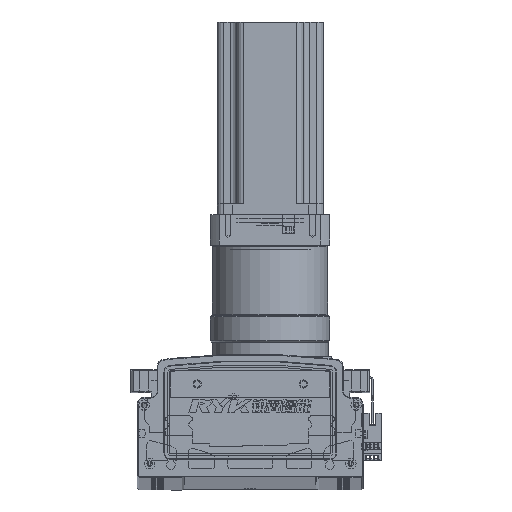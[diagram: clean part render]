
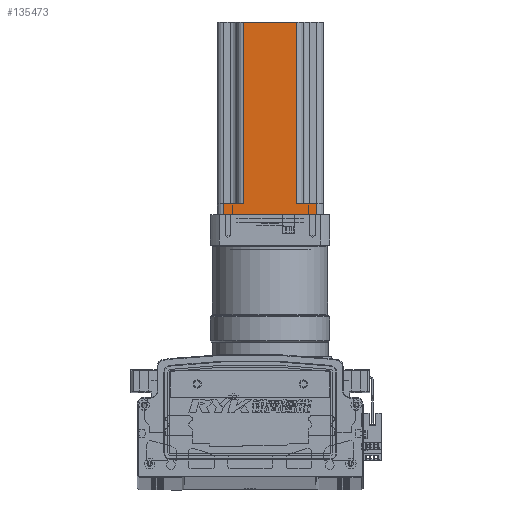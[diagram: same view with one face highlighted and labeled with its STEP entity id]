
A CAD part, top view. The second image highlights one B-rep face of the part: STEP entity #135473.
In plain terms, the highlighted planar face has unit normal (0, 0, 1) as drawn and (0, -1, 0) by its records, which use the part's own axes.
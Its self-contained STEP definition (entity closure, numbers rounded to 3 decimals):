
#10760 = VERTEX_POINT ( 'NONE', #53860 ) ;
#10774 = VERTEX_POINT ( 'NONE', #53839 ) ;
#10790 = VERTEX_POINT ( 'NONE', #53899 ) ;
#10802 = VERTEX_POINT ( 'NONE', #53880 ) ;
#10834 = VERTEX_POINT ( 'NONE', #53932 ) ;
#10842 = VERTEX_POINT ( 'NONE', #53822 ) ;
#10854 = VERTEX_POINT ( 'NONE', #53874 ) ;
#10863 = VERTEX_POINT ( 'NONE', #53868 ) ;
#38737 = PLANE ( 'NONE',  #45768 ) ;
#38752 = CARTESIAN_POINT ( 'NONE',  ( -87.587, -40.37, 145. ) ) ;
#38783 = DIRECTION ( 'NONE',  ( 0., 1., 0. ) ) ;
#38791 = DIRECTION ( 'NONE',  ( -1., 0., 0. ) ) ;
#45768 = AXIS2_PLACEMENT_3D ( 'NONE', #38752, #38783, #38791 ) ;
#48933 = FACE_OUTER_BOUND ( 'NONE', #79654, .T. ) ;
#53822 = CARTESIAN_POINT ( 'NONE',  ( -82.587, -40.37, 8. ) ) ;
#53839 = CARTESIAN_POINT ( 'NONE',  ( -12.587, -40.37, 8. ) ) ;
#53860 = CARTESIAN_POINT ( 'NONE',  ( -12.587, -40.37, 0. ) ) ;
#53868 = CARTESIAN_POINT ( 'NONE',  ( -67.587, -40.37, 145. ) ) ;
#53874 = CARTESIAN_POINT ( 'NONE',  ( -27.587, -40.37, 145. ) ) ;
#53880 = CARTESIAN_POINT ( 'NONE',  ( -67.587, -40.37, 8. ) ) ;
#53899 = CARTESIAN_POINT ( 'NONE',  ( -82.587, -40.37, 0. ) ) ;
#53932 = CARTESIAN_POINT ( 'NONE',  ( -27.587, -40.37, 8. ) ) ;
#79654 = EDGE_LOOP ( 'NONE', ( #126780, #126711, #126719, #126680, #126779, #126769, #126784, #126825 ) ) ;
#91971 = EDGE_CURVE ( 'NONE', #10790, #10760, #122271, .T. ) ;
#92004 = EDGE_CURVE ( 'NONE', #10834, #10774, #122319, .T. ) ;
#92007 = EDGE_CURVE ( 'NONE', #10863, #10854, #122378, .T. ) ;
#92065 = EDGE_CURVE ( 'NONE', #10863, #10802, #122438, .T. ) ;
#92143 = EDGE_CURVE ( 'NONE', #10842, #10802, #122446, .T. ) ;
#92189 = EDGE_CURVE ( 'NONE', #10834, #10854, #122481, .T. ) ;
#92195 = EDGE_CURVE ( 'NONE', #10842, #10790, #122556, .T. ) ;
#92230 = EDGE_CURVE ( 'NONE', #10760, #10774, #122558, .T. ) ;
#119005 = DIRECTION ( 'NONE',  ( 1., 0., 0. ) ) ;
#119018 = CARTESIAN_POINT ( 'NONE',  ( -87.587, -40.37, 0. ) ) ;
#119080 = CARTESIAN_POINT ( 'NONE',  ( -7.587, -40.37, 8. ) ) ;
#119092 = DIRECTION ( 'NONE',  ( 1., 0., 0. ) ) ;
#119094 = DIRECTION ( 'NONE',  ( 1., 0., 0. ) ) ;
#119127 = CARTESIAN_POINT ( 'NONE',  ( -87.587, -40.37, 145. ) ) ;
#119245 = DIRECTION ( 'NONE',  ( 0., 0., -1. ) ) ;
#119275 = CARTESIAN_POINT ( 'NONE',  ( -67.587, -40.37, 145. ) ) ;
#119418 = DIRECTION ( 'NONE',  ( 1., 0., 0. ) ) ;
#119452 = CARTESIAN_POINT ( 'NONE',  ( -87.587, -40.37, 8. ) ) ;
#119604 = DIRECTION ( 'NONE',  ( 0., 0., 1. ) ) ;
#119605 = CARTESIAN_POINT ( 'NONE',  ( -82.587, -40.37, 145. ) ) ;
#119606 = DIRECTION ( 'NONE',  ( 0., 0., -1. ) ) ;
#119659 = CARTESIAN_POINT ( 'NONE',  ( -27.587, -40.37, 145. ) ) ;
#119676 = DIRECTION ( 'NONE',  ( 0., 0., 1. ) ) ;
#119689 = CARTESIAN_POINT ( 'NONE',  ( -12.587, -40.37, 145. ) ) ;
#122271 = LINE ( 'NONE', #119018, #122284 ) ;
#122284 = VECTOR ( 'NONE', #119005, 1000. ) ;
#122319 = LINE ( 'NONE', #119080, #122379 ) ;
#122378 = LINE ( 'NONE', #119127, #122381 ) ;
#122379 = VECTOR ( 'NONE', #119092, 1000. ) ;
#122381 = VECTOR ( 'NONE', #119094, 1000. ) ;
#122422 = VECTOR ( 'NONE', #119245, 1000. ) ;
#122438 = LINE ( 'NONE', #119275, #122422 ) ;
#122446 = LINE ( 'NONE', #119452, #122502 ) ;
#122459 = VECTOR ( 'NONE', #119604, 1000. ) ;
#122481 = LINE ( 'NONE', #119659, #122459 ) ;
#122502 = VECTOR ( 'NONE', #119418, 1000. ) ;
#122512 = VECTOR ( 'NONE', #119676, 1000. ) ;
#122549 = VECTOR ( 'NONE', #119606, 1000. ) ;
#122556 = LINE ( 'NONE', #119605, #122549 ) ;
#122558 = LINE ( 'NONE', #119689, #122512 ) ;
#126680 = ORIENTED_EDGE ( 'NONE', *, *, #92230, .T. ) ;
#126711 = ORIENTED_EDGE ( 'NONE', *, *, #92195, .T. ) ;
#126719 = ORIENTED_EDGE ( 'NONE', *, *, #91971, .T. ) ;
#126769 = ORIENTED_EDGE ( 'NONE', *, *, #92189, .T. ) ;
#126779 = ORIENTED_EDGE ( 'NONE', *, *, #92004, .F. ) ;
#126780 = ORIENTED_EDGE ( 'NONE', *, *, #92143, .F. ) ;
#126784 = ORIENTED_EDGE ( 'NONE', *, *, #92007, .F. ) ;
#126825 = ORIENTED_EDGE ( 'NONE', *, *, #92065, .T. ) ;
#135473 = ADVANCED_FACE ( 'NONE', ( #48933 ), #38737, .F. ) ;
